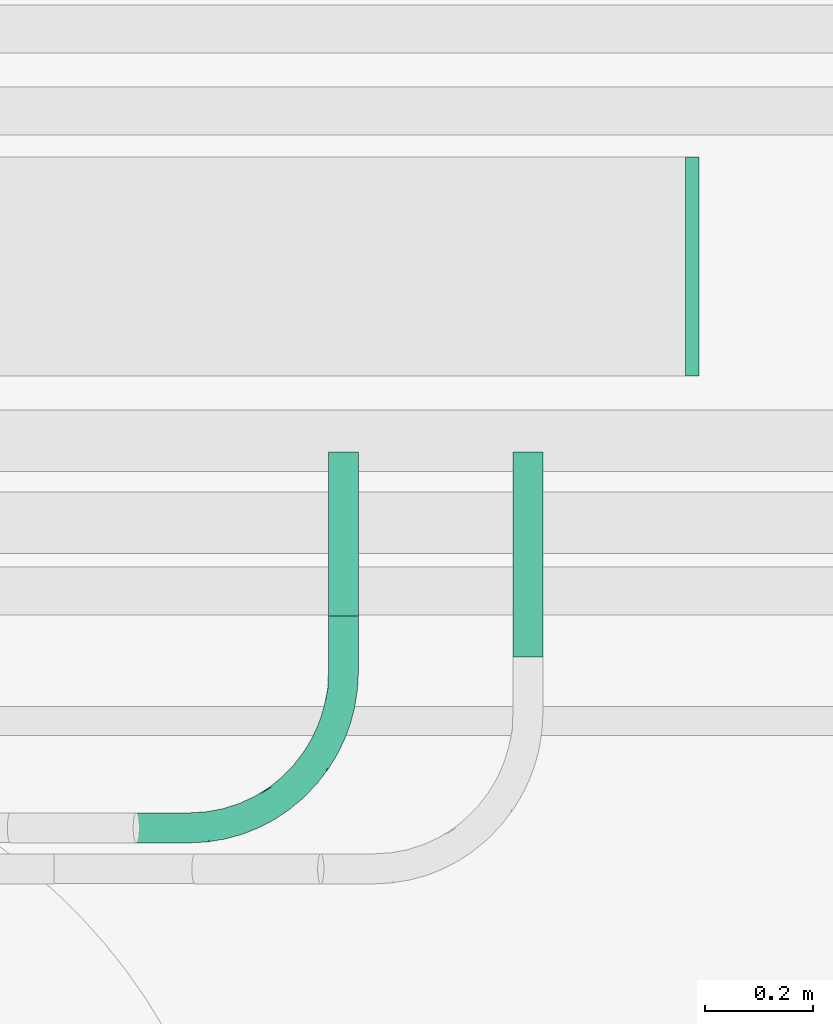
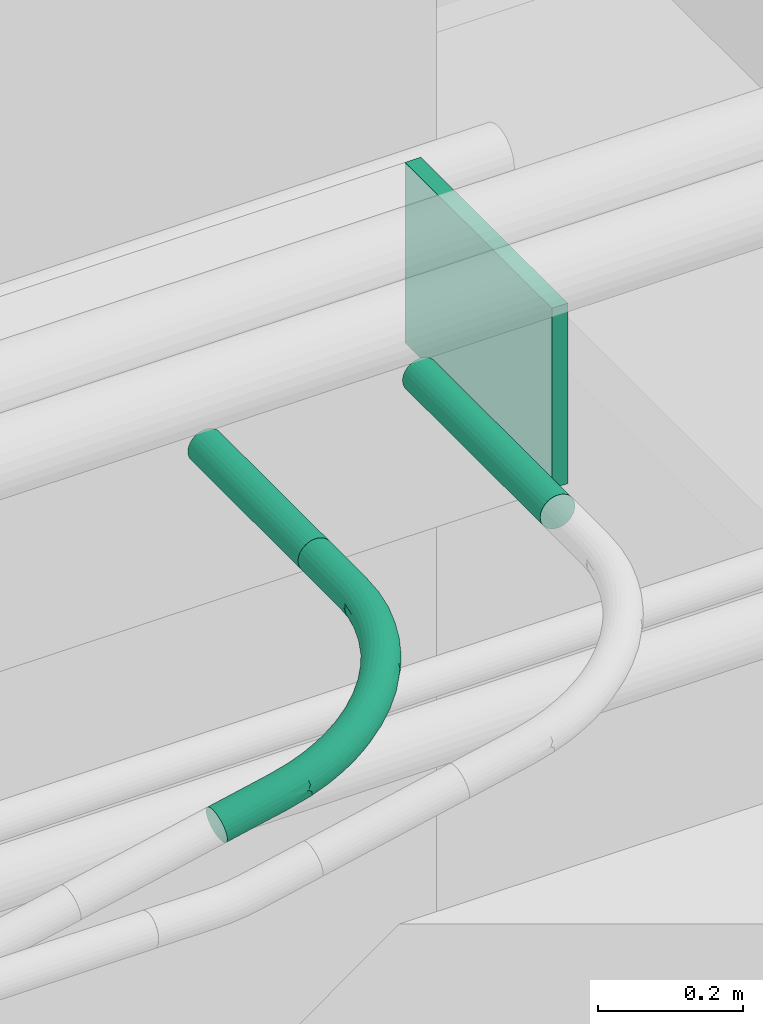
# One storey, part 74 of 108: 2 cable carrier segments, 1 cable carrier fitting, 1 duct fitting.
"""IFC4 building model written with IfcOpenShell, lengths in feet."""

from ifc_helpers import new_model, entity, si_unit, converted_unit, derived_unit, direction, frame, frame_2d, origin, origin_2d_with_axis, place, context, subcontext, project, spatial, rectangle, circle, extrude, source, transform, mapped, type_object, type_shapes, element, save


model = new_model("IFC4")

# Units and contexts
model_context = context("Model", 3, precision=0.0001, world=origin(), true_north=direction((6.12303176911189e-17, 1.0)))
body_context = subcontext(model_context, "Body", "Model", "MODEL_VIEW")
ifc_project = project(units=[converted_unit("LENGTHUNIT", "FOOT", entity("IfcRatioMeasure", 0.3048), si_unit("LENGTHUNIT", "METRE"), dimensions=[1, 0, 0, 0, 0, 0, 0]), converted_unit("AREAUNIT", "SQUARE FOOT", entity("IfcRatioMeasure", 0.09290304), si_unit("AREAUNIT", "SQUARE_METRE"), dimensions=[2, 0, 0, 0, 0, 0, 0]), converted_unit("VOLUMEUNIT", "CUBIC FOOT", entity("IfcRatioMeasure", 0.028316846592), si_unit("VOLUMEUNIT", "CUBIC_METRE"), dimensions=[3, 0, 0, 0, 0, 0, 0]), converted_unit("PLANEANGLEUNIT", "DEGREE", entity("IfcRatioMeasure", 0.0174532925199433), si_unit("PLANEANGLEUNIT", "RADIAN"), dimensions=[0, 0, 0, 0, 0, 0, 0]), si_unit("MASSUNIT", "GRAM", prefix="KILO"), derived_unit("MASSDENSITYUNIT", [(si_unit("MASSUNIT", "GRAM", prefix="KILO"), 1), (si_unit("LENGTHUNIT", "METRE"), -3)]), si_unit("TIMEUNIT", "SECOND"), si_unit("FREQUENCYUNIT", "HERTZ"), si_unit("THERMODYNAMICTEMPERATUREUNIT", "DEGREE_CELSIUS"), derived_unit("THERMALTRANSMITTANCEUNIT", [(si_unit("MASSUNIT", "GRAM", prefix="KILO"), 1), (si_unit("THERMODYNAMICTEMPERATUREUNIT", "KELVIN"), -1), (si_unit("TIMEUNIT", "SECOND"), -3)]), derived_unit("VOLUMETRICFLOWRATEUNIT", [(si_unit("LENGTHUNIT", "METRE"), 3), (si_unit("TIMEUNIT", "SECOND"), -1)]), si_unit("ELECTRICCURRENTUNIT", "AMPERE"), si_unit("ELECTRICVOLTAGEUNIT", "VOLT"), si_unit("POWERUNIT", "WATT"), si_unit("FORCEUNIT", "NEWTON"), si_unit("ILLUMINANCEUNIT", "LUX"), si_unit("LUMINOUSFLUXUNIT", "LUMEN"), si_unit("LUMINOUSINTENSITYUNIT", "CANDELA"), derived_unit("USERDEFINED", [(si_unit("MASSUNIT", "GRAM", prefix="KILO"), -1), (si_unit("LENGTHUNIT", "METRE"), -2), (si_unit("TIMEUNIT", "SECOND"), 3), (si_unit("LUMINOUSFLUXUNIT", "LUMEN"), 1)]), derived_unit("LINEARVELOCITYUNIT", [(si_unit("LENGTHUNIT", "METRE"), 1), (si_unit("TIMEUNIT", "SECOND"), -1)]), si_unit("PRESSUREUNIT", "PASCAL"), derived_unit("USERDEFINED", [(si_unit("LENGTHUNIT", "METRE"), -2), (si_unit("MASSUNIT", "GRAM", prefix="KILO"), 1), (si_unit("TIMEUNIT", "SECOND"), -2)])], contexts=[model_context])

# Site, building, storey
site_placement = place(None, origin())
site = spatial("IfcSite", under=ifc_project, at=site_placement, Name="Default", CompositionType="ELEMENT")
building_placement = place(site_placement, origin())
building = spatial("IfcBuilding", under=site, at=building_placement, CompositionType="ELEMENT")
storey_placement = place(building_placement, frame((0.0, 0.0, 168.0)))
storey = spatial("IfcBuildingStorey", under=building, at=storey_placement, Name="Level 15", CompositionType="ELEMENT", Elevation=168.0)

# Duct fitting
duct_fitting_type = type_object("IfcDuctFittingType", Name="Standard", PredefinedType="NOTDEFINED")
shared_shape_1 = source(origin(), body_context, "Body", "SweptSolid", [
    extrude(rectangle(XDim=0.0833333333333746, YDim=1.33333333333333, at=frame_2d((-5.55111512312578e-16, 0.0), x_axis=(1.0, 0.0))), frame((0.0416666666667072, 0.0, -0.500000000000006)), (0.0, 0.0, 1.0), 1.0),
])
type_shapes(duct_fitting_type, [shared_shape_1])
duct_fitting_placement = place(storey_placement, frame((-21.0291870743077, 13.1928923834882, 9.58333333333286)))
element("IfcDuctFitting", 1, at=duct_fitting_placement, inside=storey, type_object=duct_fitting_type, Name="Rectangular Endcap:Standard", ObjectType="Rectangular Endcap:Standard", PredefinedType="NOTDEFINED", context=body_context, shape_type="MappedRepresentation", body=[
    mapped(shared_shape_1, transform((0.0, 0.0, 0.0), scale=1.0)),
])

# Cable carrier segments
cable_carrier_segment_type = type_object("IfcCableCarrierSegmentType", Name="Conduit with Fittings:Conduit", PredefinedType="NOTDEFINED")
cable_carrier_segment_1_placement = place(storey_placement, frame((-23.2107568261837, 11.0617470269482, 10.2365578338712)))
element("IfcCableCarrierSegment", 2, at=cable_carrier_segment_1_placement, inside=storey, type_object=cable_carrier_segment_type, Name="Conduit with Fittings:Conduit", ObjectType="Conduit with Fittings:Conduit", PredefinedType="NOTDEFINED", context=body_context, shape_type="SweptSolid", body=[
    extrude(circle(Radius=0.0915416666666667, at=frame_2d((3.5527136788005e-15, 0.0), x_axis=(1.0, 0.0))), frame((0.0967754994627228, 0.0, 0.0967754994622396), z_axis=(0.0, 1.0, 0.0), x_axis=(1.0, 0.0, 0.0)), (0.0, 0.0, 1.0), 0.999999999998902),
])
cable_carrier_segment_2_placement = place(storey_placement, frame((-22.0857568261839, 10.8117470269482, 10.2365578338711)))
element("IfcCableCarrierSegment", 3, at=cable_carrier_segment_2_placement, inside=storey, type_object=cable_carrier_segment_type, Name="Conduit with Fittings:Conduit", ObjectType="Conduit with Fittings:Conduit", PredefinedType="NOTDEFINED", context=body_context, shape_type="SweptSolid", body=[
    extrude(circle(Radius=0.0915416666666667, at=origin_2d_with_axis()), frame((0.0967754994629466, 0.0, 0.0967754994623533), z_axis=(0.0, 1.0, 0.0), x_axis=(1.0, 0.0, 0.0)), (0.0, 0.0, 1.0), 1.2500000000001),
])

# Cable carrier fitting
cable_carrier_fitting_type = type_object("IfcCableCarrierFittingType", Name="Standard", PredefinedType="NOTDEFINED")
cartesian_point_1 = entity("IfcCartesianPoint", [-1.29166666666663, -0.0915416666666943, 0.0])
vertex_point_1 = entity("IfcVertexPoint", cartesian_point_1)
cartesian_point_2 = entity("IfcCartesianPoint", [-1.29166666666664, 0.091541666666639, 0.0])
vertex_point_2 = entity("IfcVertexPoint", cartesian_point_2)
cartesian_point_3 = entity("IfcCartesianPoint", [-1.29166666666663, 0.0, 0.0])
ifc_direction_1 = entity("IfcDirection", [-1.0, 0.0, 0.0])
ifc_direction_2 = entity("IfcDirection", [0.0, 1.0, 0.0])
edge_curve_1 = entity("IfcEdgeCurve", vertex_point_1, vertex_point_2, entity("IfcTrimmedCurve", entity("IfcCircle", entity("IfcAxis2Placement3D", cartesian_point_3, ifc_direction_1, ifc_direction_2), 0.0915416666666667), [cartesian_point_1], [cartesian_point_2], True, "CARTESIAN"), True)
edge_curve_2 = entity("IfcEdgeCurve", vertex_point_2, vertex_point_1, entity("IfcTrimmedCurve", entity("IfcCircle", entity("IfcAxis2Placement3D", cartesian_point_3, ifc_direction_1, ifc_direction_2), 0.0915416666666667), [cartesian_point_2], [cartesian_point_1], True, "CARTESIAN"), True)
ifc_direction_3 = entity("IfcDirection", [0.0, 0.0, 1.0])
cartesian_point_4 = entity("IfcCartesianPoint", [-0.958333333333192, -0.0915416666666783, 0.0])
vertex_point_3 = entity("IfcVertexPoint", cartesian_point_4)
edge_curve_3 = entity("IfcEdgeCurve", vertex_point_1, vertex_point_3, entity("IfcTrimmedCurve", entity("IfcLine", cartesian_point_1, entity("IfcVector", entity("IfcDirection", [1.0, 0.0, 0.0]), 1.0)), [cartesian_point_1], [cartesian_point_4], True, "CARTESIAN"), True)
cartesian_point_5 = entity("IfcCartesianPoint", [-0.958333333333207, 0.0915416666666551, 0.0])
vertex_point_4 = entity("IfcVertexPoint", cartesian_point_5)
cartesian_point_6 = entity("IfcCartesianPoint", [-0.958333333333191, 0.0, 0.0])
edge_curve_4 = entity("IfcEdgeCurve", vertex_point_3, vertex_point_4, entity("IfcTrimmedCurve", entity("IfcCircle", entity("IfcAxis2Placement3D", cartesian_point_6, ifc_direction_1, ifc_direction_2), 0.0915416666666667), [cartesian_point_4], [cartesian_point_5], True, "CARTESIAN"), True)
edge_curve_5 = entity("IfcEdgeCurve", vertex_point_4, vertex_point_2, entity("IfcTrimmedCurve", entity("IfcLine", cartesian_point_2, entity("IfcVector", ifc_direction_1, 1.0)), [cartesian_point_5], [cartesian_point_2], True, "CARTESIAN"), True)
edge_curve_6 = entity("IfcEdgeCurve", vertex_point_4, vertex_point_3, entity("IfcTrimmedCurve", entity("IfcCircle", entity("IfcAxis2Placement3D", cartesian_point_6, ifc_direction_1, ifc_direction_2), 0.0915416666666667), [cartesian_point_5], [cartesian_point_4], True, "CARTESIAN"), True)
cartesian_point_7 = entity("IfcCartesianPoint", [-0.0915416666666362, 0.958333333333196, 0.0])
vertex_point_5 = entity("IfcVertexPoint", cartesian_point_7)
cartesian_point_8 = entity("IfcCartesianPoint", [-0.958333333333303, 0.958333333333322, 0.0])
ifc_direction_4 = entity("IfcDirection", [0.0, -1.0, 0.0])
edge_curve_7 = entity("IfcEdgeCurve", vertex_point_5, vertex_point_4, entity("IfcTrimmedCurve", entity("IfcCircle", entity("IfcAxis2Placement3D", cartesian_point_8, entity("IfcDirection", [0.0, 0.0, -1.0]), ifc_direction_4), 0.866791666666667), [cartesian_point_7], [cartesian_point_5], True, "CARTESIAN"), True)
cartesian_point_9 = entity("IfcCartesianPoint", [0.0915416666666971, 0.958333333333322, 0.0])
vertex_point_6 = entity("IfcVertexPoint", cartesian_point_9)
edge_curve_8 = entity("IfcEdgeCurve", vertex_point_3, vertex_point_6, entity("IfcTrimmedCurve", entity("IfcCircle", entity("IfcAxis2Placement3D", cartesian_point_8, ifc_direction_3, ifc_direction_4), 1.049875), [cartesian_point_4], [cartesian_point_9], True, "CARTESIAN"), True)
cartesian_point_10 = entity("IfcCartesianPoint", [0.0, 0.958333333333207, 0.0])
edge_curve_9 = entity("IfcEdgeCurve", vertex_point_6, vertex_point_5, entity("IfcTrimmedCurve", entity("IfcCircle", entity("IfcAxis2Placement3D", cartesian_point_10, ifc_direction_4, ifc_direction_1), 0.0915416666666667), [cartesian_point_9], [cartesian_point_7], True, "CARTESIAN"), True)
edge_curve_10 = entity("IfcEdgeCurve", vertex_point_5, vertex_point_6, entity("IfcTrimmedCurve", entity("IfcCircle", entity("IfcAxis2Placement3D", cartesian_point_10, ifc_direction_4, ifc_direction_1), 0.0915416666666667), [cartesian_point_7], [cartesian_point_9], True, "CARTESIAN"), True)
cartesian_point_11 = entity("IfcCartesianPoint", [0.0915416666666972, 1.29166666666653, 0.0])
vertex_point_7 = entity("IfcVertexPoint", cartesian_point_11)
cartesian_point_12 = entity("IfcCartesianPoint", [-0.0915416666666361, 1.29166666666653, 0.0])
vertex_point_8 = entity("IfcVertexPoint", cartesian_point_12)
cartesian_point_13 = entity("IfcCartesianPoint", [0.0, 1.29166666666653, 0.0])
edge_curve_11 = entity("IfcEdgeCurve", vertex_point_7, vertex_point_8, entity("IfcTrimmedCurve", entity("IfcCircle", entity("IfcAxis2Placement3D", cartesian_point_13, ifc_direction_2, ifc_direction_1), 0.0915416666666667), [cartesian_point_11], [cartesian_point_12], True, "CARTESIAN"), True)
edge_curve_12 = entity("IfcEdgeCurve", vertex_point_8, vertex_point_7, entity("IfcTrimmedCurve", entity("IfcCircle", entity("IfcAxis2Placement3D", cartesian_point_13, ifc_direction_2, ifc_direction_1), 0.0915416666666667), [cartesian_point_12], [cartesian_point_11], True, "CARTESIAN"), True)
edge_curve_13 = entity("IfcEdgeCurve", vertex_point_6, vertex_point_7, entity("IfcTrimmedCurve", entity("IfcLine", cartesian_point_9, entity("IfcVector", ifc_direction_2, 1.0)), [cartesian_point_9], [cartesian_point_11], True, "CARTESIAN"), True)
edge_curve_14 = entity("IfcEdgeCurve", vertex_point_8, vertex_point_5, entity("IfcTrimmedCurve", entity("IfcLine", cartesian_point_7, entity("IfcVector", ifc_direction_4, 1.0)), [cartesian_point_12], [cartesian_point_7], True, "CARTESIAN"), True)
shared_shape_2 = source(origin(), body_context, "Body", "AdvancedBrep", [
    entity("IfcAdvancedBrep", entity("IfcClosedShell", [entity("IfcAdvancedFace", [entity("IfcFaceOuterBound", entity("IfcEdgeLoop", [entity("IfcOrientedEdge", None, None, edge_curve_1, True), entity("IfcOrientedEdge", None, None, edge_curve_2, True)]), True)], entity("IfcPlane", entity("IfcAxis2Placement3D", cartesian_point_3, ifc_direction_1, ifc_direction_3)), True), entity("IfcAdvancedFace", [entity("IfcFaceOuterBound", entity("IfcEdgeLoop", [entity("IfcOrientedEdge", None, None, edge_curve_1, False), entity("IfcOrientedEdge", None, None, edge_curve_3, True), entity("IfcOrientedEdge", None, None, edge_curve_4, True), entity("IfcOrientedEdge", None, None, edge_curve_5, True)]), True)], entity("IfcCylindricalSurface", entity("IfcAxis2Placement3D", cartesian_point_3, ifc_direction_1, ifc_direction_2), 0.0915416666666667), True), entity("IfcAdvancedFace", [entity("IfcFaceOuterBound", entity("IfcEdgeLoop", [entity("IfcOrientedEdge", None, None, edge_curve_2, False), entity("IfcOrientedEdge", None, None, edge_curve_5, False), entity("IfcOrientedEdge", None, None, edge_curve_6, True), entity("IfcOrientedEdge", None, None, edge_curve_3, False)]), True)], entity("IfcCylindricalSurface", entity("IfcAxis2Placement3D", cartesian_point_3, ifc_direction_1, ifc_direction_2), 0.0915416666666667), True), entity("IfcAdvancedFace", [entity("IfcFaceOuterBound", entity("IfcEdgeLoop", [entity("IfcOrientedEdge", None, None, edge_curve_7, True), entity("IfcOrientedEdge", None, None, edge_curve_4, False), entity("IfcOrientedEdge", None, None, edge_curve_8, True), entity("IfcOrientedEdge", None, None, edge_curve_9, True)]), True)], entity("IfcSurfaceOfRevolution", entity("IfcArbitraryOpenProfileDef", "CURVE", None, entity("IfcTrimmedCurve", entity("IfcTrimmedCurve", entity("IfcCircle", entity("IfcAxis2Placement3D", cartesian_point_10, ifc_direction_4, ifc_direction_1), 0.0915416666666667), [cartesian_point_9], [cartesian_point_7], True, "CARTESIAN"), [cartesian_point_9], [cartesian_point_7], True, "CARTESIAN")), None, entity("IfcAxis1Placement", cartesian_point_8, ifc_direction_3)), True), entity("IfcAdvancedFace", [entity("IfcFaceOuterBound", entity("IfcEdgeLoop", [entity("IfcOrientedEdge", None, None, edge_curve_8, False), entity("IfcOrientedEdge", None, None, edge_curve_6, False), entity("IfcOrientedEdge", None, None, edge_curve_7, False), entity("IfcOrientedEdge", None, None, edge_curve_10, True)]), True)], entity("IfcSurfaceOfRevolution", entity("IfcArbitraryOpenProfileDef", "CURVE", None, entity("IfcTrimmedCurve", entity("IfcTrimmedCurve", entity("IfcCircle", entity("IfcAxis2Placement3D", cartesian_point_10, ifc_direction_4, ifc_direction_1), 0.0915416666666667), [cartesian_point_7], [cartesian_point_9], True, "CARTESIAN"), [cartesian_point_7], [cartesian_point_9], True, "CARTESIAN")), None, entity("IfcAxis1Placement", cartesian_point_8, ifc_direction_3)), True), entity("IfcAdvancedFace", [entity("IfcFaceOuterBound", entity("IfcEdgeLoop", [entity("IfcOrientedEdge", None, None, edge_curve_11, True), entity("IfcOrientedEdge", None, None, edge_curve_12, True)]), True)], entity("IfcPlane", entity("IfcAxis2Placement3D", cartesian_point_13, ifc_direction_2, ifc_direction_3)), True), entity("IfcAdvancedFace", [entity("IfcFaceOuterBound", entity("IfcEdgeLoop", [entity("IfcOrientedEdge", None, None, edge_curve_9, False), entity("IfcOrientedEdge", None, None, edge_curve_13, True), entity("IfcOrientedEdge", None, None, edge_curve_12, False), entity("IfcOrientedEdge", None, None, edge_curve_14, True)]), True)], entity("IfcCylindricalSurface", entity("IfcAxis2Placement3D", cartesian_point_10, ifc_direction_4, ifc_direction_1), 0.0915416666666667), True), entity("IfcAdvancedFace", [entity("IfcFaceOuterBound", entity("IfcEdgeLoop", [entity("IfcOrientedEdge", None, None, edge_curve_10, False), entity("IfcOrientedEdge", None, None, edge_curve_14, False), entity("IfcOrientedEdge", None, None, edge_curve_11, False), entity("IfcOrientedEdge", None, None, edge_curve_13, False)]), True)], entity("IfcCylindricalSurface", entity("IfcAxis2Placement3D", cartesian_point_10, ifc_direction_4, ifc_direction_1), 0.0915416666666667), True)])),
])
type_shapes(cable_carrier_fitting_type, [shared_shape_2])
cable_carrier_fitting_placement = place(storey_placement, frame((-23.113981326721, 9.77008036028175, 10.3333333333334), z_axis=(-0.207524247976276, 0.0, 0.978229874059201), x_axis=(0.978229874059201, 0.0, 0.207524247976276)))
element("IfcCableCarrierFitting", 4, at=cable_carrier_fitting_placement, inside=storey, type_object=cable_carrier_fitting_type, Name="Conduit Elbow - Steel:Standard", ObjectType="Conduit Elbow - Steel:Standard", PredefinedType="NOTDEFINED", context=body_context, shape_type="MappedRepresentation", body=[
    mapped(shared_shape_2, transform((0.0, 0.0, 0.0), scale=1.0)),
])

save(model, "model.ifc")
